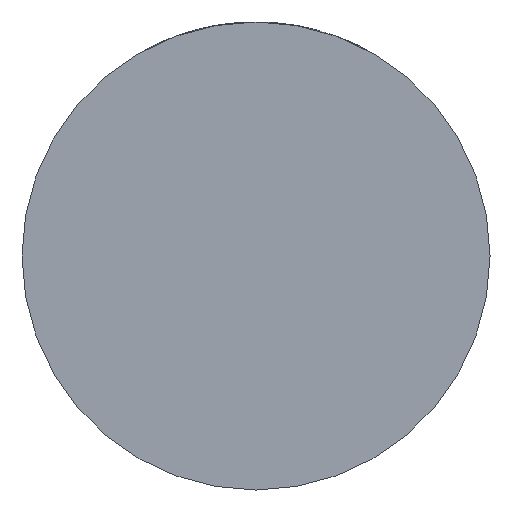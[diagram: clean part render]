
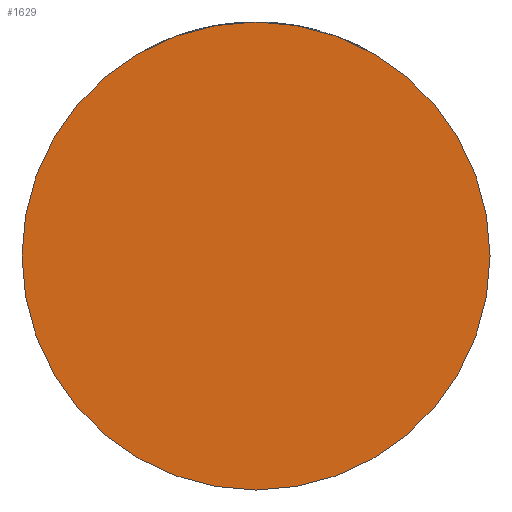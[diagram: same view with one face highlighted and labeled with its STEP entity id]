
A CAD part, front view. The second image highlights one B-rep face of the part: STEP entity #1629.
In plain terms, the highlighted planar face has unit normal (0, -1, 0).
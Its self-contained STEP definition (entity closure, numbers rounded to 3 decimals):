
#150 = PLANE ( 'NONE',  #1025 ) ;
#223 = CARTESIAN_POINT ( 'NONE',  ( 39., -36., 0. ) ) ;
#292 = DIRECTION ( 'NONE',  ( 1., 0., 0. ) ) ;
#903 = AXIS2_PLACEMENT_3D ( 'NONE', #963, #3425, #292 ) ;
#963 = CARTESIAN_POINT ( 'NONE',  ( 0., -36., 0. ) ) ;
#998 = DIRECTION ( 'NONE',  ( 0., -1., 0. ) ) ;
#1025 = AXIS2_PLACEMENT_3D ( 'NONE', #1538, #998, #4469 ) ;
#1074 = EDGE_CURVE ( 'NONE', #2764, #3551, #1947, .T. ) ;
#1077 = EDGE_LOOP ( 'NONE', ( #1227, #4161 ) ) ;
#1227 = ORIENTED_EDGE ( 'NONE', *, *, #1074, .T. ) ;
#1355 = CARTESIAN_POINT ( 'NONE',  ( 0., -36., 0. ) ) ;
#1538 = CARTESIAN_POINT ( 'NONE',  ( 0., -36., 0. ) ) ;
#1629 = ADVANCED_FACE ( 'NONE', ( #3016 ), #150, .T. ) ;
#1947 = CIRCLE ( 'NONE', #4280, 39. ) ;
#2746 = DIRECTION ( 'NONE',  ( 0., -1., 0. ) ) ;
#2764 = VERTEX_POINT ( 'NONE', #3086 ) ;
#3016 = FACE_OUTER_BOUND ( 'NONE', #1077, .T. ) ;
#3086 = CARTESIAN_POINT ( 'NONE',  ( -39., -36., 0. ) ) ;
#3425 = DIRECTION ( 'NONE',  ( 0., -1., 0. ) ) ;
#3551 = VERTEX_POINT ( 'NONE', #223 ) ;
#3649 = CIRCLE ( 'NONE', #903, 39. ) ;
#4126 = DIRECTION ( 'NONE',  ( 1., 0., 0. ) ) ;
#4161 = ORIENTED_EDGE ( 'NONE', *, *, #4441, .T. ) ;
#4280 = AXIS2_PLACEMENT_3D ( 'NONE', #1355, #2746, #4126 ) ;
#4441 = EDGE_CURVE ( 'NONE', #3551, #2764, #3649, .T. ) ;
#4469 = DIRECTION ( 'NONE',  ( 1., 0., 0. ) ) ;
